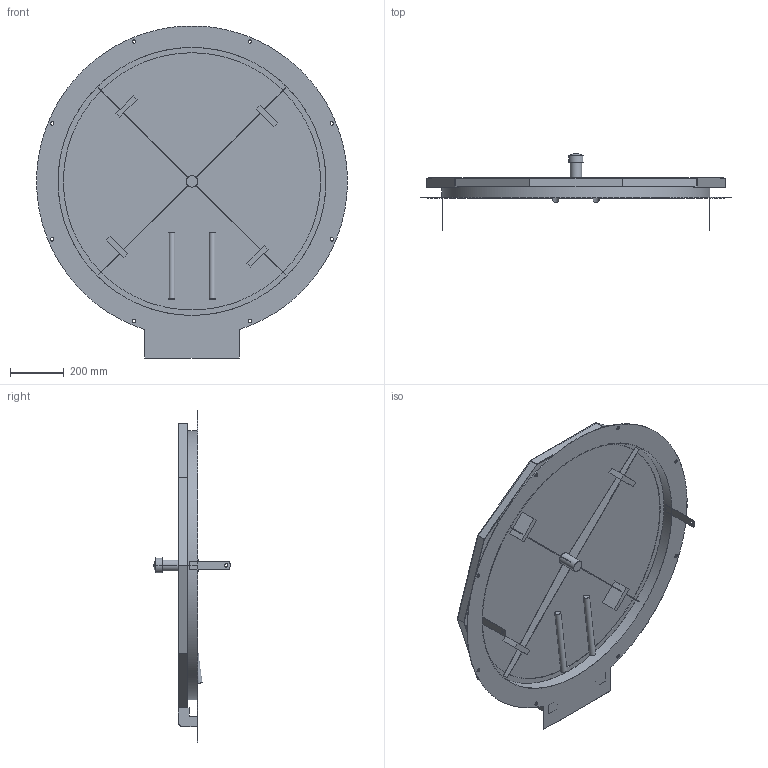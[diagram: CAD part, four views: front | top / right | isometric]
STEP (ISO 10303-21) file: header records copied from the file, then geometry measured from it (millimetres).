
FILE_DESCRIPTION((''),'2;1');
FILE_NAME('52008227','2022-12-20T15:39:00',('bal'),('HUBER SE'),'CREO PARAMETRIC BY PTC INC, 2022162','CREO PARAMETRIC BY PTC INC, 2022162','');
FILE_SCHEMA(('CONFIG_CONTROL_DESIGN'));
Length unit declared in the file: millimetre
Products named in the file (1): 52008227
Bounding box: 1154.94 x 284 x 1233.85 mm (x, y, z)
Volume: 4503616 mm3; surface area: 3359418 mm2
Topology: 3 solids, 3 shells, 148 faces, 0 edges, 0 vertices
Faces by surface type: other 148
Entity records: 343 total; most frequent: COORDINATES_LIST 148, COMPLEX_TRIANGULATED_FACE 148, PERSON_AND_ORGANIZATION_ROLE 4, CC_DESIGN_PERSON_AND_ORGANIZATION_ASSIGNMENT 4, TESSELLATED_SOLID 3, DATE_TIME_ROLE 2, CC_DESIGN_DATE_AND_TIME_ASSIGNMENT 2, DIMENSIONAL_EXPONENTS 1
